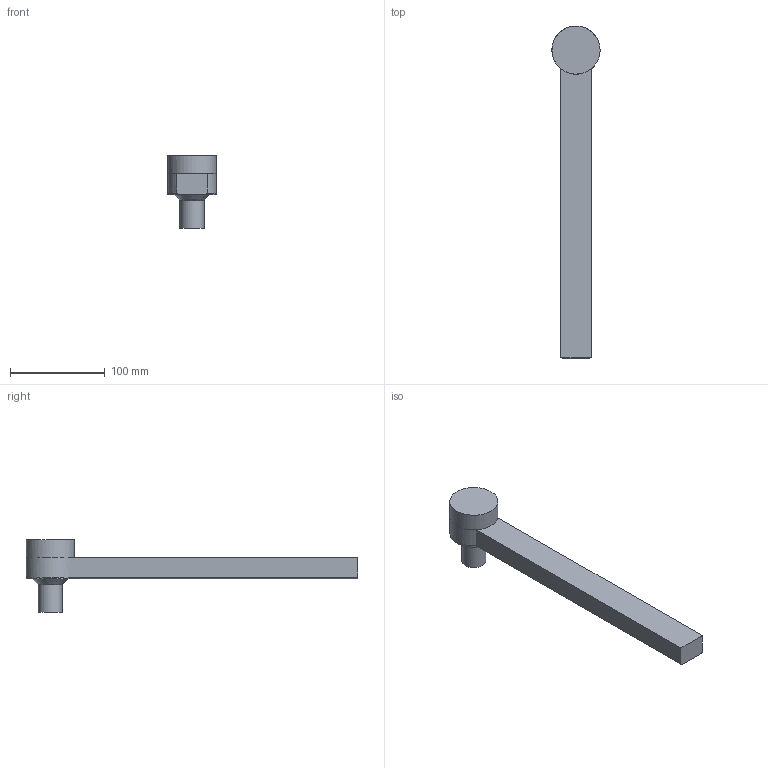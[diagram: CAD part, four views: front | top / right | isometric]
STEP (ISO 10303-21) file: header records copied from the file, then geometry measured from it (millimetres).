
FILE_DESCRIPTION(/* description */ (''),/* implementation_level */ '2;1');
FILE_NAME(/* name */ 'B01113TRUPas.stp',/* time_stamp */ '2019-10-02T08:18:43-04:00',/* author */ (''),/* organization */ (''),/* preprocessor_version */ 'ST-DEVELOPER v16',/* originating_system */ 'SIEMENS PLM Software NX 11.0',/* authorisation */ '');
FILE_SCHEMA (('AUTOMOTIVE_DESIGN { 1 0 10303 214 3 1 1 1 }'));
Length unit declared in the file: inch
Products named in the file (3): B01XX_SubSolid; B01113TRUPd; B01113TRUPas
Assembly tree (2 placements, depth 2):
  B01113TRUPas
    B01113TRUPd
    B01XX_SubSolid
Bounding box: 50.91 x 350.87 x 76.99 mm (x, y, z)
Volume: 370947.2 mm3; surface area: 58025.6 mm2
Topology: 2 solids, 3 shells, 32 faces, 68 edges, 43 vertices
Faces by surface type: plane 13, cylinder 9, cone 5, torus 3, sphere 1, revolution 1
Full cylindrical faces by diameter (mm): 8.731 x2, 25.4 x2, 50.927 x1
Entity records: 834 total; most frequent: CARTESIAN_POINT 161, DIRECTION 134, ORIENTED_EDGE 92, AXIS2_PLACEMENT_3D 58, EDGE_LOOP 50, EDGE_CURVE 46, FACE_BOUND 41, VERTEX_POINT 38
